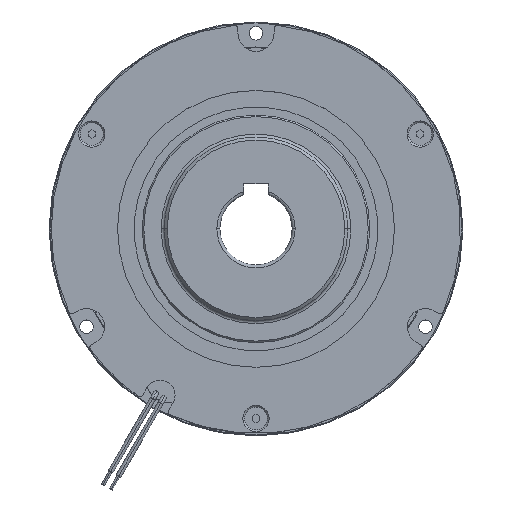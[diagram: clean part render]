
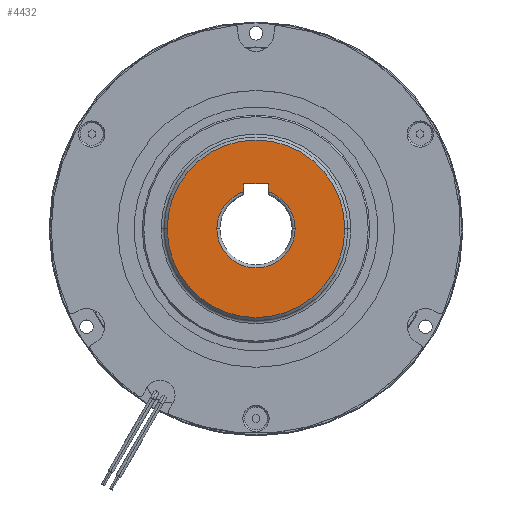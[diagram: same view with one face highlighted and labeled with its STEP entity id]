
A CAD part, top view. The second image highlights one B-rep face of the part: STEP entity #4432.
In plain terms, the highlighted planar face has unit normal (0, 0, 1).
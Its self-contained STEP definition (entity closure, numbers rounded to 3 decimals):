
#1474 = PLANE ( 'NONE',  #8509 ) ;
#1481 = CARTESIAN_POINT ( 'NONE',  ( 0., 0., 32.7 ) ) ;
#1482 = DIRECTION ( 'NONE',  ( 0., 0., -1. ) ) ;
#1483 = DIRECTION ( 'NONE',  ( -1., 0., 0. ) ) ;
#1846 = EDGE_CURVE ( 'NONE', #3863, #3847, #12273, .T. ) ;
#1847 = EDGE_CURVE ( 'NONE', #9764, #9808, #12274, .T. ) ;
#1848 = EDGE_CURVE ( 'NONE', #9794, #9775, #12275, .T. ) ;
#1849 = EDGE_CURVE ( 'NONE', #9775, #9370, #12278, .T. ) ;
#1850 = EDGE_CURVE ( 'NONE', #9370, #9764, #12279, .T. ) ;
#2245 = CARTESIAN_POINT ( 'NONE',  ( 29.5, 0., 32.7 ) ) ;
#2261 = CARTESIAN_POINT ( 'NONE',  ( -29.5, 0., 32.7 ) ) ;
#3374 = EDGE_LOOP ( 'NONE', ( #9148, #9147 ) ) ;
#3380 = EDGE_LOOP ( 'NONE', ( #9146, #9145, #9144, #9143, #9142, #9141 ) ) ;
#3847 = VERTEX_POINT ( 'NONE', #2245 ) ;
#3863 = VERTEX_POINT ( 'NONE', #2261 ) ;
#4400 = FACE_OUTER_BOUND ( 'NONE', #3374, .T. ) ;
#4408 = FACE_BOUND ( 'NONE', #3380, .T. ) ;
#4432 = ADVANCED_FACE ( 'NONE', ( #4400, #4408 ), #1474, .F. ) ;
#6116 = CARTESIAN_POINT ( 'NONE',  ( -4., 15., 32.7 ) ) ;
#6416 = CARTESIAN_POINT ( 'NONE',  ( 4., 15., 32.7 ) ) ;
#6427 = CARTESIAN_POINT ( 'NONE',  ( -4., 12.369, 32.7 ) ) ;
#6446 = CARTESIAN_POINT ( 'NONE',  ( -13., 0., 32.7 ) ) ;
#6453 = CARTESIAN_POINT ( 'NONE',  ( 13., 0., 32.7 ) ) ;
#6460 = CARTESIAN_POINT ( 'NONE',  ( 4., 12.369, 32.7 ) ) ;
#6687 = CARTESIAN_POINT ( 'NONE',  ( 4., 15., 32.7 ) ) ;
#6688 = CARTESIAN_POINT ( 'NONE',  ( 0., 0., 32.7 ) ) ;
#6689 = DIRECTION ( 'NONE',  ( 0., 0., 1. ) ) ;
#6690 = DIRECTION ( 'NONE',  ( -1., 0., 0. ) ) ;
#6691 = CARTESIAN_POINT ( 'NONE',  ( -4., 15., 32.7 ) ) ;
#6692 = DIRECTION ( 'NONE',  ( 0., -1., 0. ) ) ;
#6694 = CARTESIAN_POINT ( 'NONE',  ( 0., 0., 32.7 ) ) ;
#6695 = DIRECTION ( 'NONE',  ( 0., 0., -1. ) ) ;
#6696 = DIRECTION ( 'NONE',  ( -1., 0., 0. ) ) ;
#6697 = DIRECTION ( 'NONE',  ( 0., 1., 0. ) ) ;
#6698 = CARTESIAN_POINT ( 'NONE',  ( 4., 15., 32.7 ) ) ;
#6699 = DIRECTION ( 'NONE',  ( 1., 0., 0. ) ) ;
#7239 = EDGE_CURVE ( 'NONE', #3847, #3863, #10059, .T. ) ;
#7256 = EDGE_CURVE ( 'NONE', #9808, #9801, #10076, .T. ) ;
#7261 = EDGE_CURVE ( 'NONE', #9801, #9794, #10079, .T. ) ;
#8509 = AXIS2_PLACEMENT_3D ( 'NONE', #1481, #1482, #1483 ) ;
#9141 = ORIENTED_EDGE ( 'NONE', *, *, #1850, .T. ) ;
#9142 = ORIENTED_EDGE ( 'NONE', *, *, #1849, .T. ) ;
#9143 = ORIENTED_EDGE ( 'NONE', *, *, #1848, .T. ) ;
#9144 = ORIENTED_EDGE ( 'NONE', *, *, #7261, .T. ) ;
#9145 = ORIENTED_EDGE ( 'NONE', *, *, #7256, .T. ) ;
#9146 = ORIENTED_EDGE ( 'NONE', *, *, #1847, .T. ) ;
#9147 = ORIENTED_EDGE ( 'NONE', *, *, #7239, .T. ) ;
#9148 = ORIENTED_EDGE ( 'NONE', *, *, #1846, .T. ) ;
#9370 = VERTEX_POINT ( 'NONE', #6116 ) ;
#9764 = VERTEX_POINT ( 'NONE', #6416 ) ;
#9775 = VERTEX_POINT ( 'NONE', #6427 ) ;
#9794 = VERTEX_POINT ( 'NONE', #6446 ) ;
#9801 = VERTEX_POINT ( 'NONE', #6453 ) ;
#9808 = VERTEX_POINT ( 'NONE', #6460 ) ;
#10059 = CIRCLE ( 'NONE', #12534, 29.5 ) ;
#10076 = CIRCLE ( 'NONE', #12548, 13. ) ;
#10079 = CIRCLE ( 'NONE', #12551, 13. ) ;
#10884 = AXIS2_PLACEMENT_3D ( 'NONE', #6688, #6689, #6690 ) ;
#10885 = AXIS2_PLACEMENT_3D ( 'NONE', #6694, #6695, #6696 ) ;
#11653 = CARTESIAN_POINT ( 'NONE',  ( 0., 0., 32.7 ) ) ;
#11654 = DIRECTION ( 'NONE',  ( 0., 0., 1. ) ) ;
#11655 = DIRECTION ( 'NONE',  ( -1., 0., 0. ) ) ;
#11711 = CARTESIAN_POINT ( 'NONE',  ( 0., 0., 32.7 ) ) ;
#11712 = DIRECTION ( 'NONE',  ( 0., 0., -1. ) ) ;
#11713 = DIRECTION ( 'NONE',  ( -1., 0., 0. ) ) ;
#11730 = CARTESIAN_POINT ( 'NONE',  ( 0., 0., 32.7 ) ) ;
#11731 = DIRECTION ( 'NONE',  ( 0., 0., -1. ) ) ;
#11732 = DIRECTION ( 'NONE',  ( -1., 0., 0. ) ) ;
#12273 = CIRCLE ( 'NONE', #10884, 29.5 ) ;
#12274 = LINE ( 'NONE', #6687, #12277 ) ;
#12275 = CIRCLE ( 'NONE', #10885, 13. ) ;
#12277 = VECTOR ( 'NONE', #6692, 1000. ) ;
#12278 = LINE ( 'NONE', #6691, #12280 ) ;
#12279 = LINE ( 'NONE', #6698, #12282 ) ;
#12280 = VECTOR ( 'NONE', #6697, 1000. ) ;
#12282 = VECTOR ( 'NONE', #6699, 1000. ) ;
#12534 = AXIS2_PLACEMENT_3D ( 'NONE', #11653, #11654, #11655 ) ;
#12548 = AXIS2_PLACEMENT_3D ( 'NONE', #11711, #11712, #11713 ) ;
#12551 = AXIS2_PLACEMENT_3D ( 'NONE', #11730, #11731, #11732 ) ;
